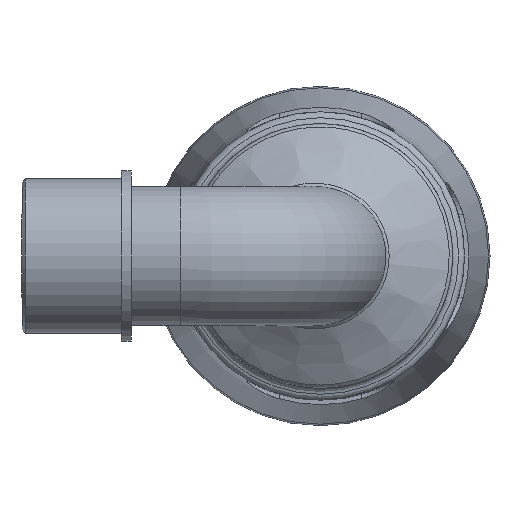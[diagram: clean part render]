
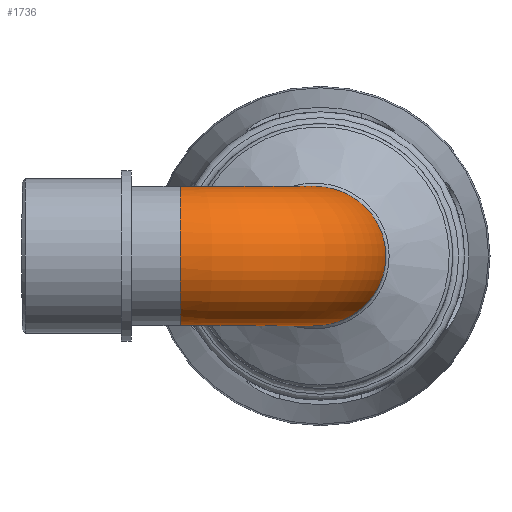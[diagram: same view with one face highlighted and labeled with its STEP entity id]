
A CAD part, left-side view. The second image highlights one B-rep face of the part: STEP entity #1736.
In plain terms, the highlighted toroidal (fillet/blend) face has major radius 23.935 mm and minor radius 11.899 mm.
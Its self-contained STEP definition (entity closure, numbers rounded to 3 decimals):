
#80=TOROIDAL_SURFACE('',#1855,23.935,11.898);
#90=FACE_BOUND('',#436,.T.);
#319=FACE_OUTER_BOUND('',#435,.T.);
#435=EDGE_LOOP('',(#1149));
#436=EDGE_LOOP('',(#1150));
#557=B_SPLINE_CURVE_WITH_KNOTS('',3,(#2627,#2628,#2629,#2630,#2631,#2632,
#2633,#2634,#2635,#2636,#2637,#2638,#2639,#2640,#2641,#2642,#2643,#2644,
#2645),.UNSPECIFIED.,.T.,.F.,(4,1,1,1,1,1,1,1,1,1,1,1,1,1,1,1,4),(-3.142,
-2.693,-2.244,-1.795,-1.346,
-0.898,-0.449,-0.15,0.15,
0.449,1.047,1.346,1.795,2.244,
2.693,2.917,3.142),.UNSPECIFIED.);
#631=CIRCLE('',#1850,11.898);
#721=VERTEX_POINT('',#2625);
#728=VERTEX_POINT('',#2880);
#882=EDGE_CURVE('',#721,#721,#557,.T.);
#892=EDGE_CURVE('',#728,#728,#631,.T.);
#1149=ORIENTED_EDGE('',*,*,#882,.F.);
#1150=ORIENTED_EDGE('',*,*,#892,.T.);
#1736=ADVANCED_FACE('',(#319,#90),#80,.T.);
#1850=AXIS2_PLACEMENT_3D('',#2881,#2066,#2067);
#1855=AXIS2_PLACEMENT_3D('',#2889,#2076,#2077);
#2066=DIRECTION('center_axis',(0.,-1.,0.));
#2067=DIRECTION('ref_axis',(-1.,0.,0.));
#2076=DIRECTION('center_axis',(0.,0.,1.));
#2077=DIRECTION('ref_axis',(1.,0.,0.));
#2625=CARTESIAN_POINT('',(16.628,14.37,0.));
#2627=CARTESIAN_POINT('Ctrl Pts',(16.628,14.372,0.001));
#2628=CARTESIAN_POINT('Ctrl Pts',(16.628,14.37,1.829));
#2629=CARTESIAN_POINT('Ctrl Pts',(16.598,13.274,5.465));
#2630=CARTESIAN_POINT('Ctrl Pts',(16.598,9.337,9.602));
#2631=CARTESIAN_POINT('Ctrl Pts',(16.676,4.167,11.934));
#2632=CARTESIAN_POINT('Ctrl Pts',(16.765,-1.492,12.049));
#2633=CARTESIAN_POINT('Ctrl Pts',(16.835,-6.666,9.788));
#2634=CARTESIAN_POINT('Ctrl Pts',(16.872,-9.912,5.965));
#2635=CARTESIAN_POINT('Ctrl Pts',(16.887,-11.246,1.85));
#2636=CARTESIAN_POINT('Ctrl Pts',(16.887,-11.244,-1.849));
#2637=CARTESIAN_POINT('Ctrl Pts',(16.87,-9.726,-6.56));
#2638=CARTESIAN_POINT('Ctrl Pts',(16.829,-6.122,-10.182));
#2639=CARTESIAN_POINT('Ctrl Pts',(16.755,-0.861,-12.033));
#2640=CARTESIAN_POINT('Ctrl Pts',(16.676,4.164,-11.935));
#2641=CARTESIAN_POINT('Ctrl Pts',(16.598,9.34,-9.604));
#2642=CARTESIAN_POINT('Ctrl Pts',(16.597,12.612,-6.149));
#2643=CARTESIAN_POINT('Ctrl Pts',(16.621,14.103,-2.745));
#2644=CARTESIAN_POINT('Ctrl Pts',(16.628,14.373,-0.913));
#2645=CARTESIAN_POINT('Ctrl Pts',(16.628,14.372,0.001));
#2880=CARTESIAN_POINT('',(11.898,23.935,0.));
#2881=CARTESIAN_POINT('Origin',(0.,23.935,0.));
#2889=CARTESIAN_POINT('Origin',(23.935,23.935,0.));
